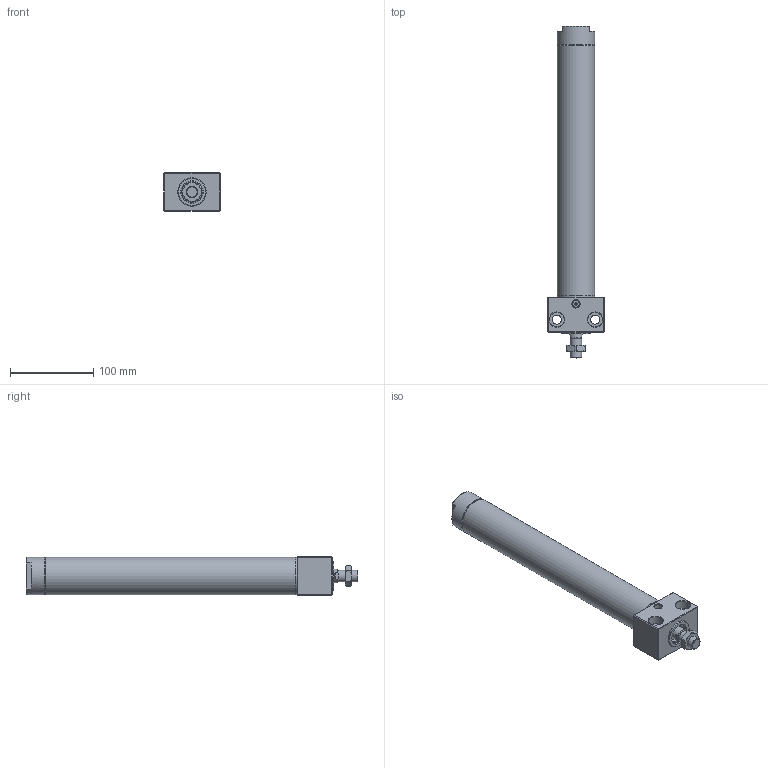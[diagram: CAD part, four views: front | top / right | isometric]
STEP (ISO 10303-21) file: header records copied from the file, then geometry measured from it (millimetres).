
FILE_DESCRIPTION((''),'2;1');
FILE_NAME('I:\3D電子目錄\氣缸\DBS\DBS\DBS40x250.stp','2007-10-08T08:49:36',('Administrator'),(''),'Autodesk Inventor 2008','Autodesk Inventor 2008','');
FILE_SCHEMA(('AUTOMOTIVE_DESIGN { 1 0 10303 214 1 1 1 1 }'));
Length unit declared in the file: millimetre
Products named in the file (1): DBS40x250
Bounding box: 68 x 398.6 x 46 mm (x, y, z)
Volume: 324962.1 mm3; surface area: 134046.2 mm2
Topology: 6 solids, 6 shells, 166 faces, 323 edges, 195 vertices
Faces by surface type: plane 74, cone 41, cylinder 35, bspline 13, torus 3
Full cylindrical faces by diameter (mm): 3 x1, 10.5 x1, 12 x1, 13 x1, 14 x2, 16 x1, 16.5 x1, 18 x1, 21 x2, 24 x3, 26 x2, 27.5 x1, 28 x2, 34 x1, 38 x2, 38.5 x2, 40 x1, 42.2 x6, 45 x4
Entity records: 3958 total; most frequent: CARTESIAN_POINT 865, DIRECTION 652, ORIENTED_EDGE 488, AXIS2_PLACEMENT_3D 287, EDGE_LOOP 280, EDGE_CURVE 244, VERTEX_POINT 188, FACE_OUTER_BOUND 166
